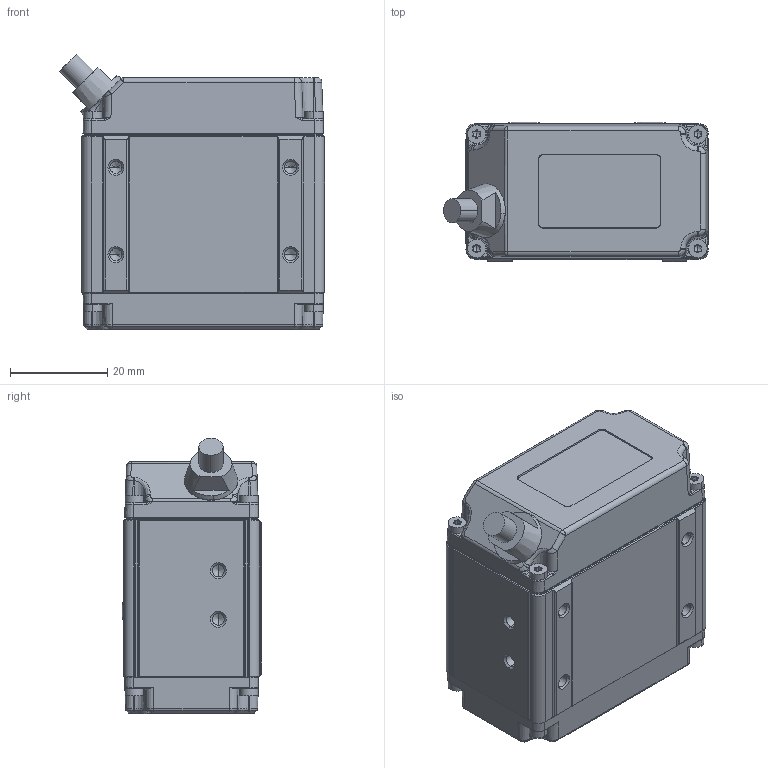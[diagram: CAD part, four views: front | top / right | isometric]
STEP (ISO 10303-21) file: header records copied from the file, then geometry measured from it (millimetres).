
FILE_DESCRIPTION((''),'2;1');
FILE_NAME('DH2-RD003284-6021_4','2023-11-30T21:32:56',('111079'),(''),'CREO PARAMETRIC BY PTC INC, 2020184','CREO PARAMETRIC BY PTC INC, 2020184','');
FILE_SCHEMA(('CONFIG_CONTROL_DESIGN','SHAPE_APPEARANCE_LAYERS_GROUPS'));
Length unit declared in the file: millimetre
Products named in the file (1): DH2-RD003284-6021_4
Bounding box: 54.64 x 28.82 x 56.84 mm (x, y, z)
Volume: 70052.8 mm3; surface area: 11476.1 mm2
Topology: 1 solids, 1 shells, 633 faces, 1652 edges, 1008 vertices
Faces by surface type: cylinder 240, plane 209, cone 114, torus 34, bspline 30, sphere 6
Entity records: 27452 total; most frequent: CARTESIAN_POINT 5503, DIRECTION 3502, ORIENTED_EDGE 3228, PRESENTATION_STYLE_ASSIGNMENT 1736, STYLED_ITEM 1615, CURVE_STYLE 1614, EDGE_CURVE 1614, AXIS2_PLACEMENT_3D 1410
